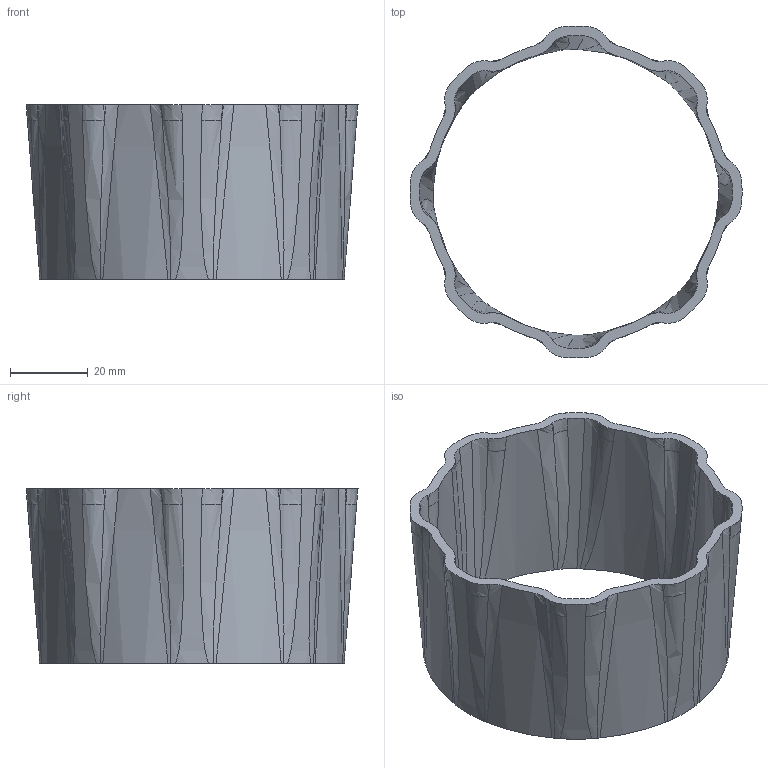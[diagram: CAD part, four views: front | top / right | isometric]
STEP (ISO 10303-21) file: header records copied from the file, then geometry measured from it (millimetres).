
FILE_DESCRIPTION(/* description */ (''),/* implementation_level */ '2;1');
FILE_NAME(/* name */ 'Water Bottle Adapter.step',/* time_stamp */ '2023-07-05T19:49:23-07:00',/* author */ (''),/* organization */ (''),/* preprocessor_version */ 'ST-DEVELOPER v19.2',/* originating_system */ 'Autodesk Translation Framework v12.6.0.85',/* authorisation */ '');
FILE_SCHEMA (('AUTOMOTIVE_DESIGN { 1 0 10303 214 3 1 1 }'));
Length unit declared in the file: millimetre
Products named in the file (1): Water Bottle Adapter
Bounding box: 85.58 x 85.58 x 45 mm (x, y, z)
Volume: 28399.9 mm3; surface area: 23704.9 mm2
Topology: 1 solids, 1 shells, 162 faces, 448 edges, 288 vertices
Faces by surface type: bspline 96, plane 34, cylinder 16, cone 16
Entity records: 9675 total; most frequent: CARTESIAN_POINT 6147, ORIENTED_EDGE 896, DIRECTION 486, EDGE_CURVE 448, VERTEX_POINT 288, B_SPLINE_CURVE_WITH_KNOTS 256, AXIS2_PLACEMENT_3D 227, EDGE_LOOP 164
